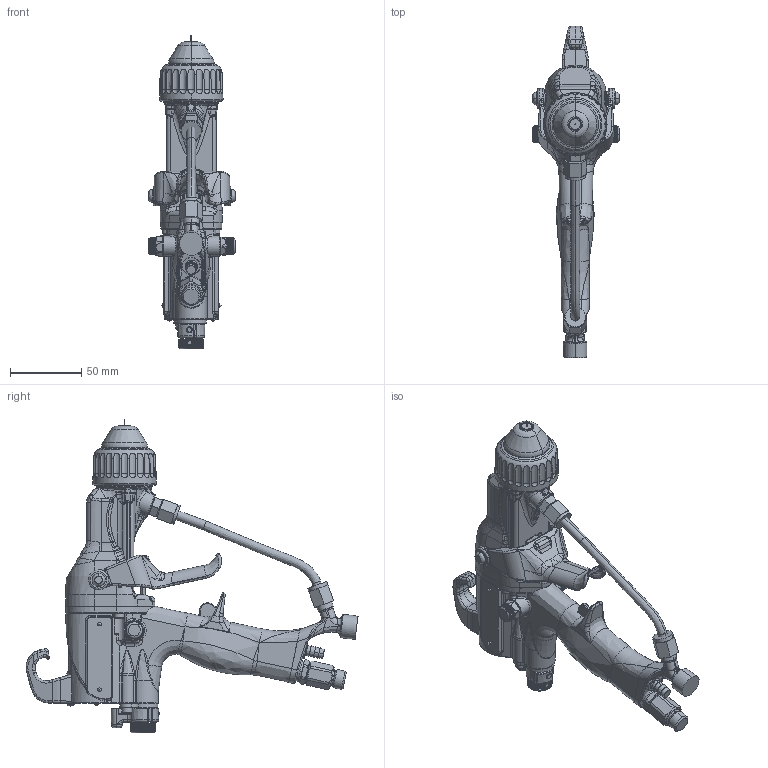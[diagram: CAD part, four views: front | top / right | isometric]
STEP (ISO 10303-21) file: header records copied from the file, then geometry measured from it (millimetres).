
FILE_DESCRIPTION((''),'2;1');
FILE_NAME('L40T31-EN-E_PRT','2020-05-18T18:13:43',('qusrh3'),(''),'CREO PARAMETRIC BY PTC INC, 2019030','CREO PARAMETRIC BY PTC INC, 2019030','');
FILE_SCHEMA(('CONFIG_CONTROL_DESIGN'));
Products named in the file (1): L40T31-EN-E_PRT
Bounding box: 60.96 x 233.22 x 220.38 mm (x, y, z)
Surface area: 84285 mm2 (no closed solid volume)
Topology: 0 solids, 62 shells, 2527 faces, 6963 edges, 4362 vertices
Faces by surface type: bspline 799, cylinder 645, plane 568, torus 233, cone 224, sphere 52, extrusion 6
Entity records: 123090 total; most frequent: CARTESIAN_POINT 67354, ORIENTED_EDGE 12636, DIRECTION 9625, EDGE_CURVE 6956, VERTEX_POINT 4362, AXIS2_PLACEMENT_3D 3856, B_SPLINE_CURVE_WITH_KNOTS 2921, EDGE_LOOP 2527
